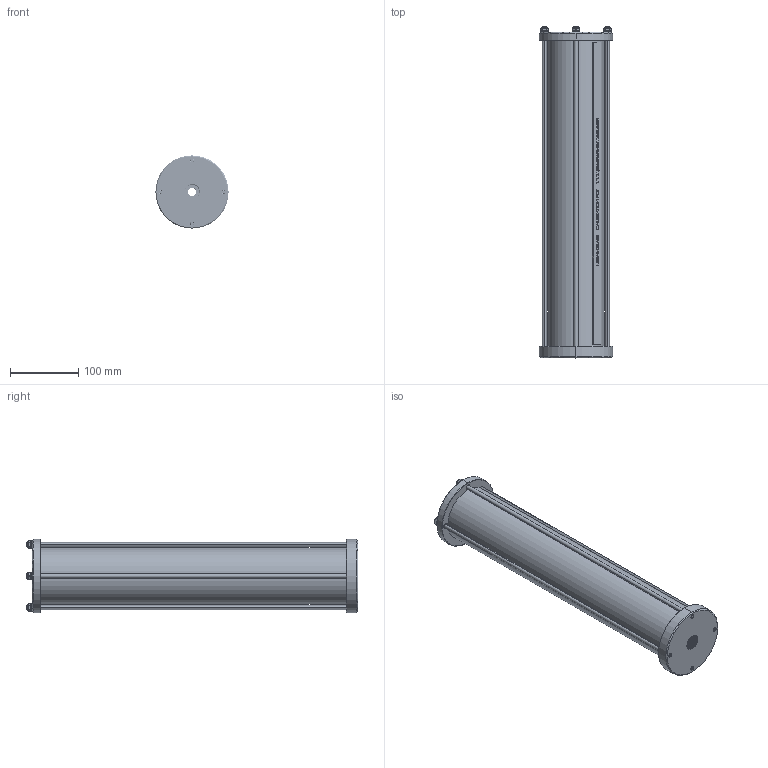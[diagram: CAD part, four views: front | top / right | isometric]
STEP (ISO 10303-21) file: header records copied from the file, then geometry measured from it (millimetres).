
FILE_DESCRIPTION (( 'STEP AP214' ), '1' );
FILE_NAME ('1.75LTR-C-11-34.STEP', '2025-08-19T14:15:48', ( '' ), ( '' ), 'SwSTEP 2.0', 'SolidWorks 2024', '' );
FILE_SCHEMA (( 'AUTOMOTIVE_DESIGN' ));
Length unit declared in the file: millimetre
Products named in the file (1): 1.75LTR-C-11-34
Bounding box: 107 x 485 x 107 mm (x, y, z)
Volume: 704346.7 mm3; surface area: 338278.8 mm2
Topology: 16 solids, 16 shells, 1494 faces, 3896 edges, 2512 vertices
Faces by surface type: cylinder 514, plane 455, bspline 349, cone 88, sphere 72, torus 16
Entity records: 109009 total; most frequent: CARTESIAN_POINT 60559, ORIENTED_EDGE 7792, DIRECTION 5052, EDGE_CURVE 3896, VERTEX_POINT 2512, LINE 1806, VECTOR 1806, AXIS2_PLACEMENT_3D 1623
